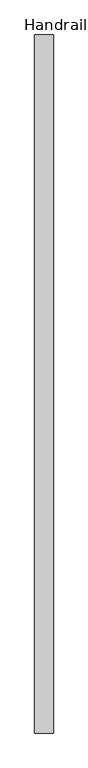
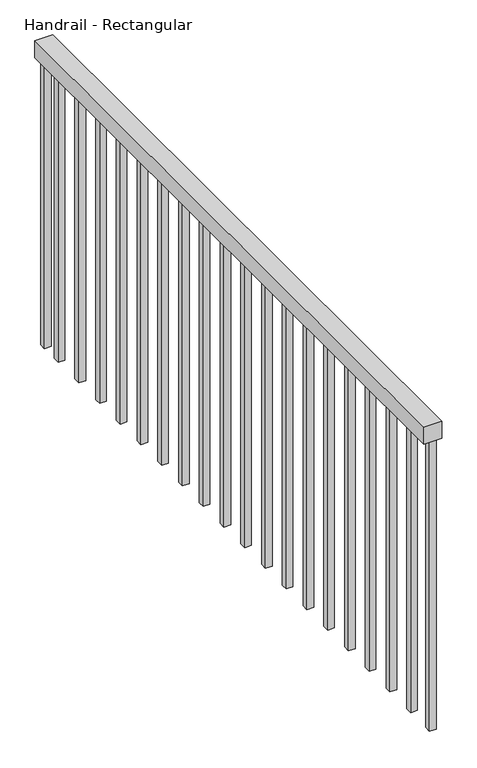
"""IFC4 building model written with IfcOpenShell, lengths in millimetres: railing geometry, Handrail - Rectangular."""

from ifc_helpers import new_model, si_unit, frame, origin, place, context, project, spatial, polyline, outline, extrude, source, transform, mapped, element, save


def handrail_rectangular_a3462fd7(model_context):
    return source(origin(), model_context, "Body", "SweptSolid", [
        extrude(outline(polyline([(95556.0378283, 6251.9422994), (95505.2378283, 6251.9422994), (95505.2378283, 8156.9422994), (95556.0378283, 8156.9422994), (95556.0378283, 6251.9422994)])), frame((0.0, 0.0, 4216.4), z_axis=(0.0, 0.0, 1.0), x_axis=(1.0, 0.0, 0.0)), (0.0, 0.0, 1.0), 50.8),
        extrude(outline(polyline([(95540.1628283, 8071.2172994), (95521.1128283, 8071.2172994), (95521.1128283, 8090.2672994), (95540.1628283, 8090.2672994), (95540.1628283, 8071.2172994)])), frame((0.0, 0.0, 3352.8), z_axis=(0.0, 0.0, 1.0), x_axis=(1.0, 0.0, 0.0)), (0.0, 0.0, 1.0), 863.6),
        extrude(outline(polyline([(95540.1628283, 7969.6172994), (95521.1128283, 7969.6172994), (95521.1128283, 7988.6672994), (95540.1628283, 7988.6672994), (95540.1628283, 7969.6172994)])), frame((0.0, 0.0, 3352.8), z_axis=(0.0, 0.0, 1.0), x_axis=(1.0, 0.0, 0.0)), (0.0, 0.0, 1.0), 863.6),
        extrude(outline(polyline([(95540.1628283, 7868.0172994), (95521.1128283, 7868.0172994), (95521.1128283, 7887.0672994), (95540.1628283, 7887.0672994), (95540.1628283, 7868.0172994)])), frame((0.0, 0.0, 3352.8), z_axis=(0.0, 0.0, 1.0), x_axis=(1.0, 0.0, 0.0)), (0.0, 0.0, 1.0), 863.6),
        extrude(outline(polyline([(95540.1628283, 7766.4172994), (95521.1128283, 7766.4172994), (95521.1128283, 7785.4672994), (95540.1628283, 7785.4672994), (95540.1628283, 7766.4172994)])), frame((0.0, 0.0, 3352.8), z_axis=(0.0, 0.0, 1.0), x_axis=(1.0, 0.0, 0.0)), (0.0, 0.0, 1.0), 863.6),
        extrude(outline(polyline([(95540.1628283, 7664.8172994), (95521.1128283, 7664.8172994), (95521.1128283, 7683.8672994), (95540.1628283, 7683.8672994), (95540.1628283, 7664.8172994)])), frame((0.0, 0.0, 3352.8), z_axis=(0.0, 0.0, 1.0), x_axis=(1.0, 0.0, 0.0)), (0.0, 0.0, 1.0), 863.6),
        extrude(outline(polyline([(95540.1628283, 7563.2172994), (95521.1128283, 7563.2172994), (95521.1128283, 7582.2672994), (95540.1628283, 7582.2672994), (95540.1628283, 7563.2172994)])), frame((0.0, 0.0, 3352.8), z_axis=(0.0, 0.0, 1.0), x_axis=(1.0, 0.0, 0.0)), (0.0, 0.0, 1.0), 863.6),
        extrude(outline(polyline([(95540.1628283, 7461.6172994), (95521.1128283, 7461.6172994), (95521.1128283, 7480.6672994), (95540.1628283, 7480.6672994), (95540.1628283, 7461.6172994)])), frame((0.0, 0.0, 3352.8), z_axis=(0.0, 0.0, 1.0), x_axis=(1.0, 0.0, 0.0)), (0.0, 0.0, 1.0), 863.6),
        extrude(outline(polyline([(95540.1628283, 7360.0172994), (95521.1128283, 7360.0172994), (95521.1128283, 7379.0672994), (95540.1628283, 7379.0672994), (95540.1628283, 7360.0172994)])), frame((0.0, 0.0, 3352.8), z_axis=(0.0, 0.0, 1.0), x_axis=(1.0, 0.0, 0.0)), (0.0, 0.0, 1.0), 863.6),
        extrude(outline(polyline([(95540.1628283, 7258.4172994), (95521.1128283, 7258.4172994), (95521.1128283, 7277.4672994), (95540.1628283, 7277.4672994), (95540.1628283, 7258.4172994)])), frame((0.0, 0.0, 3352.8), z_axis=(0.0, 0.0, 1.0), x_axis=(1.0, 0.0, 0.0)), (0.0, 0.0, 1.0), 863.6),
        extrude(outline(polyline([(95540.1628283, 7156.8172994), (95521.1128283, 7156.8172994), (95521.1128283, 7175.8672994), (95540.1628283, 7175.8672994), (95540.1628283, 7156.8172994)])), frame((0.0, 0.0, 3352.8), z_axis=(0.0, 0.0, 1.0), x_axis=(1.0, 0.0, 0.0)), (0.0, 0.0, 1.0), 863.6),
        extrude(outline(polyline([(95540.1628283, 7055.2172994), (95521.1128283, 7055.2172994), (95521.1128283, 7074.2672994), (95540.1628283, 7074.2672994), (95540.1628283, 7055.2172994)])), frame((0.0, 0.0, 3352.8), z_axis=(0.0, 0.0, 1.0), x_axis=(1.0, 0.0, 0.0)), (0.0, 0.0, 1.0), 863.6),
        extrude(outline(polyline([(95540.1628283, 6953.6172994), (95521.1128283, 6953.6172994), (95521.1128283, 6972.6672994), (95540.1628283, 6972.6672994), (95540.1628283, 6953.6172994)])), frame((0.0, 0.0, 3352.8), z_axis=(0.0, 0.0, 1.0), x_axis=(1.0, 0.0, 0.0)), (0.0, 0.0, 1.0), 863.6),
        extrude(outline(polyline([(95540.1628283, 6852.0172994), (95521.1128283, 6852.0172994), (95521.1128283, 6871.0672994), (95540.1628283, 6871.0672994), (95540.1628283, 6852.0172994)])), frame((0.0, 0.0, 3352.8), z_axis=(0.0, 0.0, 1.0), x_axis=(1.0, 0.0, 0.0)), (0.0, 0.0, 1.0), 863.6),
        extrude(outline(polyline([(95540.1628283, 6750.4172994), (95521.1128283, 6750.4172994), (95521.1128283, 6769.4672994), (95540.1628283, 6769.4672994), (95540.1628283, 6750.4172994)])), frame((0.0, 0.0, 3352.8), z_axis=(0.0, 0.0, 1.0), x_axis=(1.0, 0.0, 0.0)), (0.0, 0.0, 1.0), 863.6),
        extrude(outline(polyline([(95540.1628283, 6648.8172994), (95521.1128283, 6648.8172994), (95521.1128283, 6667.8672994), (95540.1628283, 6667.8672994), (95540.1628283, 6648.8172994)])), frame((0.0, 0.0, 3352.8), z_axis=(0.0, 0.0, 1.0), x_axis=(1.0, 0.0, 0.0)), (0.0, 0.0, 1.0), 863.6),
        extrude(outline(polyline([(95540.1628283, 6547.2172994), (95521.1128283, 6547.2172994), (95521.1128283, 6566.2672994), (95540.1628283, 6566.2672994), (95540.1628283, 6547.2172994)])), frame((0.0, 0.0, 3352.8), z_axis=(0.0, 0.0, 1.0), x_axis=(1.0, 0.0, 0.0)), (0.0, 0.0, 1.0), 863.6),
        extrude(outline(polyline([(95540.1628283, 6445.6172994), (95521.1128283, 6445.6172994), (95521.1128283, 6464.6672994), (95540.1628283, 6464.6672994), (95540.1628283, 6445.6172994)])), frame((0.0, 0.0, 3352.8), z_axis=(0.0, 0.0, 1.0), x_axis=(1.0, 0.0, 0.0)), (0.0, 0.0, 1.0), 863.6),
        extrude(outline(polyline([(95540.1628283, 6344.0172994), (95521.1128283, 6344.0172994), (95521.1128283, 6363.0672994), (95540.1628283, 6363.0672994), (95540.1628283, 6344.0172994)])), frame((0.0, 0.0, 3352.8), z_axis=(0.0, 0.0, 1.0), x_axis=(1.0, 0.0, 0.0)), (0.0, 0.0, 1.0), 863.6),
        extrude(outline(polyline([(95540.1628283, 8137.8922994), (95521.1128283, 8137.8922994), (95521.1128283, 8156.9422994), (95540.1628283, 8156.9422994), (95540.1628283, 8137.8922994)])), frame((0.0, 0.0, 3352.8), z_axis=(0.0, 0.0, 1.0), x_axis=(1.0, 0.0, 0.0)), (0.0, 0.0, 1.0), 863.6),
        extrude(outline(polyline([(95540.1628283, 6251.9422994), (95521.1128283, 6251.9422994), (95521.1128283, 6270.9922994), (95540.1628283, 6270.9922994), (95540.1628283, 6251.9422994)])), frame((0.0, 0.0, 3352.8), z_axis=(0.0, 0.0, 1.0), x_axis=(1.0, 0.0, 0.0)), (0.0, 0.0, 1.0), 863.6),
    ])


if __name__ == "__main__":
    model = new_model("IFC4")
    model_context = context("Model", 3, world=origin())
    ifc_project = project(units=[si_unit("LENGTHUNIT", "METRE", prefix="MILLI")], contexts=[model_context])
    site = spatial("IfcSite", under=ifc_project)
    building = spatial("IfcBuilding", under=site)
    placement = place(None, origin())
    handrail_rectangular_shape = handrail_rectangular_a3462fd7(model_context)
    element("IfcRailing", 1, ObjectType="Handrail - Rectangular", at=placement, inside=building, context=model_context, shape_type="MappedRepresentation", body=[
        mapped(handrail_rectangular_shape, transform((0.0, 0.0, 0.0), x_axis=(1.0, 0.0, 0.0), y_axis=(0.0, 1.0, 0.0), z_axis=(0.0, 0.0, 1.0))),
    ])
    save(model, "model.ifc")
